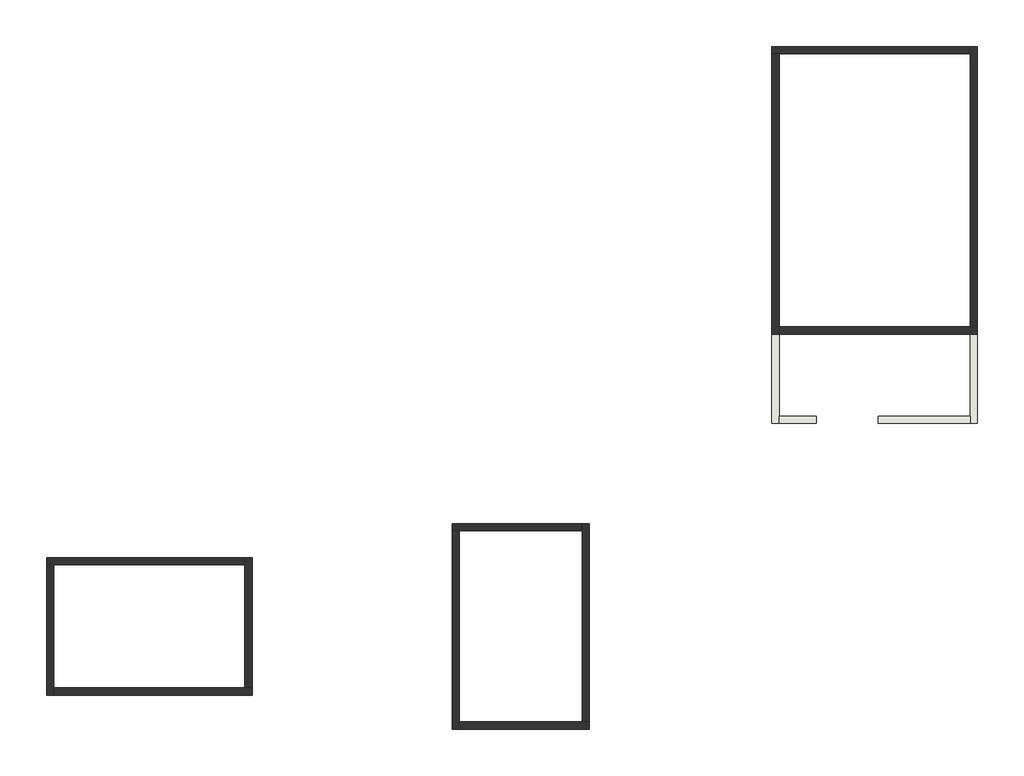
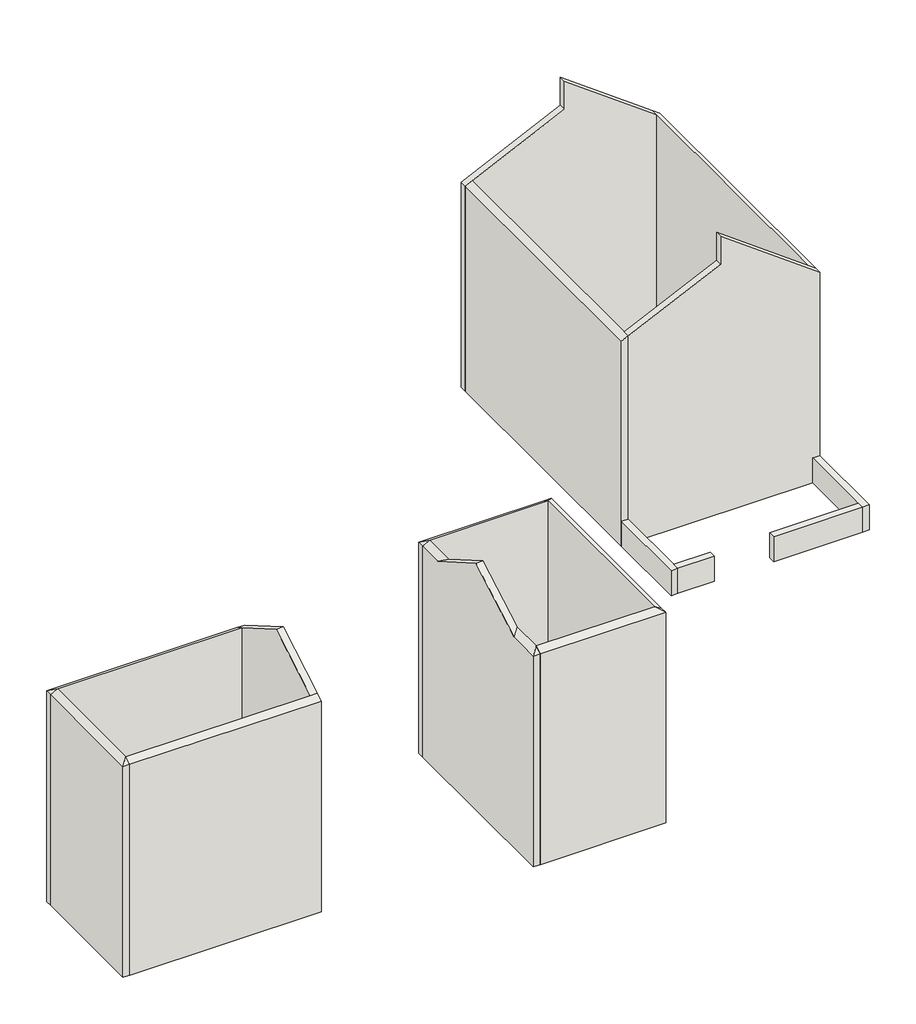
# One storey: 16 walls.
"""IFC4 building model written with IfcOpenShell, lengths in millimetres."""

from ifc_helpers import new_model, si_unit, origin, origin_with_axes, place, context, project, spatial, polyline, outline, extrude, faceted_brep, element, save

model = new_model("IFC4")

# Units and contexts
model_context = context("Model", 3, world=origin())
ifc_project = project(units=[si_unit("LENGTHUNIT", "METRE", prefix="MILLI")], contexts=[model_context])

# Site, building, storey
site = spatial("IfcSite", under=ifc_project)
building = spatial("IfcBuilding", under=site)
storey = spatial("IfcBuildingStorey", under=building, Name="Nível 1", Elevation=0.0)

# Walls
placement = place(None, origin())
element("IfcWall", 1, ObjectType="CW 102-50-100p", at=placement, inside=storey, context=model_context, shape_type="Brep", body=[
    faceted_brep([(-11859.5381387, 2966.9722757, 0.0), (-11595.5381387, 2966.9722757, 0.0), (-4595.5381387, 2966.9722757, 0.0), (-4595.5381387, 2966.9722757, 8614.3006864), (-11595.5381387, 2966.9722757, 8614.3006864), (-11859.5381387, 2966.9722757, 8461.8802154), (-11859.5381387, 3230.9722757, 0.0), (-11859.5381387, 3230.9722757, 8461.8802154), (-4595.5381387, 3230.9722757, 8461.8802154), (-4595.5381387, 3230.9722757, 0.0)], [[[0, 1, 2, 3, 4, 5]], [[6, 7, 8, 9]], [[2, 1, 0, 6, 9]], [[0, 5, 7, 6]], [[3, 2, 9, 8]], [[5, 4, 7]], [[4, 3, 8, 7]]]),
])
element("IfcWall", 2, ObjectType="CW 102-50-100p", at=placement, inside=storey, context=model_context, shape_type="Brep", body=[
    faceted_brep([(-11595.5381387, -1797.0277243, 0.0), (-11595.5381387, -1533.0277243, 0.0), (-11595.5381387, 2966.9722757, 0.0), (-11595.5381387, 2966.9722757, 8614.3006864), (-11595.5381387, -1533.0277243, 8614.3006864), (-11595.5381387, -1797.0277243, 8461.8802154), (-11859.5381387, -1797.0277243, 0.0), (-11859.5381387, -1797.0277243, 8461.8802154), (-11859.5381387, 2966.9722757, 8461.8802154), (-11859.5381387, 2966.9722757, 0.0)], [[[0, 1, 2, 3, 4, 5]], [[6, 7, 8, 9]], [[2, 1, 0, 6, 9]], [[0, 5, 7, 6]], [[3, 2, 9, 8]], [[5, 4, 7]], [[4, 3, 8, 7]]]),
])
element("IfcWall", 3, ObjectType="CW 102-50-100p", at=placement, inside=storey, context=model_context, shape_type="Brep", body=[
    faceted_brep([(-4331.5381387, -1533.0277243, 0.0), (-4595.5381387, -1533.0277243, 0.0), (-11595.5381387, -1533.0277243, 0.0), (-11595.5381387, -1533.0277243, 8614.3006864), (-4595.5381387, -1533.0277243, 8614.3006864), (-4331.5381387, -1533.0277243, 8614.3006864), (-4331.5381387, -1797.0277243, 0.0), (-4331.5381387, -1797.0277243, 8461.8802154), (-11595.5381387, -1797.0277243, 8461.8802154), (-11595.5381387, -1797.0277243, 0.0)], [[[0, 1, 2, 3, 4, 5]], [[6, 7, 8, 9]], [[2, 1, 0, 6, 9]], [[0, 5, 7, 6]], [[3, 2, 9, 8]], [[5, 4, 3, 8, 7]]]),
])
element("IfcWall", 4, ObjectType="CW 102-50-100p", at=placement, inside=storey, context=model_context, shape_type="Brep", body=[
    faceted_brep([(-4595.5381387, 3230.9722757, 0.0), (-4595.5381387, 2966.9722757, 0.0), (-4595.5381387, -1533.0277243, 0.0), (-4595.5381387, -1533.0277243, 8614.3006864), (-4595.5381387, 716.9722757, 9913.3387921), (-4595.5381387, 2966.9722757, 8614.3006864), (-4595.5381387, 3230.9722757, 8461.8802154), (-4331.5381387, 3230.9722757, 0.0), (-4331.5381387, 3230.9722757, 8461.8802154), (-4331.5381387, 716.9722757, 9913.3387921), (-4331.5381387, -1533.0277243, 8614.3006864), (-4331.5381387, -1533.0277243, 0.0)], [[[0, 1, 2, 3, 4, 5, 6]], [[7, 8, 9, 10, 11]], [[2, 1, 0, 7, 11]], [[0, 6, 8, 7]], [[3, 2, 11, 10]], [[6, 5, 4, 9, 8]], [[4, 3, 10, 9]]]),
])
element("IfcWall", 5, ObjectType="CW 102-50-100p", at=placement, inside=storey, context=model_context, shape_type="Brep", body=[
    faceted_brep([(3254.4618613, -3047.0277243, 0.0), (3254.4618613, -2783.0277243, 0.0), (3254.4618613, 4216.9722757, 0.0), (3254.4618613, 4216.9722757, 8614.3006864), (3254.4618613, 2966.9722757, 8614.3006864), (3254.4618613, 716.9722757, 9913.3387921), (3254.4618613, -1533.0277243, 8614.3006864), (3254.4618613, -2783.0277243, 8614.3006864), (3254.4618613, -3047.0277243, 8461.8802154), (2990.4618613, -3047.0277243, 0.0), (2990.4618613, -3047.0277243, 8461.8802154), (2990.4618613, -1797.0277243, 8461.8802154), (2990.4618613, 716.9722757, 9913.3387921), (2990.4618613, 3230.9722757, 8461.8802154), (2990.4618613, 4216.9722757, 8461.8802154), (2990.4618613, 4216.9722757, 0.0)], [[[0, 1, 2, 3, 4, 5, 6, 7, 8]], [[9, 10, 11, 12, 13, 14, 15]], [[2, 1, 0, 9, 15]], [[0, 8, 10, 9]], [[3, 2, 15, 14]], [[8, 7, 10]], [[7, 6, 11, 10]], [[6, 5, 12, 11]], [[5, 4, 13, 12]], [[4, 3, 14, 13]]]),
])
element("IfcWall", 6, ObjectType="CW 102-50-100p", at=placement, inside=storey, context=model_context, shape_type="Brep", body=[
    faceted_brep([(8018.4618613, -2783.0277243, 0.0), (7754.4618613, -2783.0277243, 0.0), (3254.4618613, -2783.0277243, 0.0), (3254.4618613, -2783.0277243, 8614.3006864), (7754.4618613, -2783.0277243, 8614.3006864), (8018.4618613, -2783.0277243, 8461.8802154), (8018.4618613, -3047.0277243, 0.0), (8018.4618613, -3047.0277243, 8461.8802154), (3254.4618613, -3047.0277243, 8461.8802154), (3254.4618613, -3047.0277243, 0.0)], [[[0, 1, 2, 3, 4, 5]], [[6, 7, 8, 9]], [[2, 1, 0, 6, 9]], [[0, 5, 7, 6]], [[3, 2, 9, 8]], [[5, 4, 7]], [[4, 3, 8, 7]]]),
])
element("IfcWall", 7, ObjectType="CW 102-50-100p", at=placement, inside=storey, context=model_context, shape_type="Brep", body=[
    faceted_brep([(7754.4618613, 4480.9722757, 0.0), (7754.4618613, 4216.9722757, 0.0), (7754.4618613, -2783.0277243, 0.0), (7754.4618613, -2783.0277243, 8614.3006864), (7754.4618613, 4216.9722757, 8614.3006864), (7754.4618613, 4480.9722757, 8461.8802154), (8018.4618613, 4480.9722757, 0.0), (8018.4618613, 4480.9722757, 8461.8802154), (8018.4618613, -2783.0277243, 8461.8802154), (8018.4618613, -2783.0277243, 0.0)], [[[0, 1, 2, 3, 4, 5]], [[6, 7, 8, 9]], [[2, 1, 0, 6, 9]], [[0, 5, 7, 6]], [[3, 2, 9, 8]], [[5, 4, 7]], [[4, 3, 8, 7]]]),
])
element("IfcWall", 8, ObjectType="CW 102-50-100p", at=placement, inside=storey, context=model_context, shape_type="Brep", body=[
    faceted_brep([(2990.4618613, 4216.9722757, 0.0), (3254.4618613, 4216.9722757, 0.0), (7754.4618613, 4216.9722757, 0.0), (7754.4618613, 4216.9722757, 8614.3006864), (3254.4618613, 4216.9722757, 8614.3006864), (2990.4618613, 4216.9722757, 8461.8802154), (2990.4618613, 4480.9722757, 0.0), (2990.4618613, 4480.9722757, 8461.8802154), (7754.4618613, 4480.9722757, 8461.8802154), (7754.4618613, 4480.9722757, 0.0)], [[[0, 1, 2, 3, 4, 5]], [[6, 7, 8, 9]], [[2, 1, 0, 6, 9]], [[0, 5, 7, 6]], [[3, 2, 9, 8]], [[5, 4, 7]], [[4, 3, 8, 7]]]),
])
element("IfcWall", 9, ObjectType="CW 102-50-100p", at=placement, inside=storey, context=model_context, shape_type="Brep", body=[
    faceted_brep([(14695.4842802, 21682.007266, 0.0), (14959.4842802, 21682.007266, 0.0), (21959.4842802, 21682.007266, 0.0), (21959.4842802, 21682.007266, 8561.2930311), (18459.4842802, 21682.007266, 11132.6616289), (18459.4842802, 21682.007266, 10000.0), (14959.4842802, 21682.007266, 8358.3489681), (14695.4842802, 21682.007266, 8234.521576), (14695.4842802, 21946.007266, 0.0), (14695.4842802, 21946.007266, 8234.521576), (18459.4842802, 21946.007266, 10000.0), (18459.4842802, 21946.007266, 11132.6616289), (21959.4842802, 21946.007266, 8561.2930311), (21959.4842802, 21946.007266, 0.0)], [[[0, 1, 2, 3, 4, 5, 6, 7]], [[8, 9, 10, 11, 12, 13]], [[2, 1, 0, 8, 13]], [[0, 7, 9, 8]], [[3, 2, 13, 12]], [[4, 11, 10, 5]], [[7, 6, 5, 10, 9]], [[4, 3, 12, 11]]]),
])
element("IfcWall", 10, ObjectType="CW 102-50-100p", at=placement, inside=storey, context=model_context, shape_type="Brep", body=[
    faceted_brep([(14959.4842802, 11418.007266, 8358.3489681), (14959.4842802, 11418.007266, 1000.0), (14959.4842802, 11418.007266, 0.0), (14959.4842802, 11682.007266, 0.0), (14959.4842802, 21682.007266, 0.0), (14959.4842802, 21682.007266, 8358.3489681), (14959.4842802, 11682.007266, 8358.3489681), (14695.4842802, 11418.007266, 0.0), (14695.4842802, 11418.007266, 1000.0), (14695.4842802, 11418.007266, 8234.521576), (14695.4842802, 21682.007266, 8234.521576), (14695.4842802, 21682.007266, 0.0)], [[[0, 1, 2, 3, 4, 5, 6]], [[7, 8, 9, 10, 11]], [[4, 3, 2, 7, 11]], [[5, 4, 11, 10]], [[0, 9, 8, 7, 2, 1]], [[0, 6, 5, 10, 9]]]),
])
element("IfcWall", 11, ObjectType="CW 102-50-100p", at=placement, inside=storey, context=model_context, shape_type="Brep", body=[
    faceted_brep([(22223.4842802, 11682.007266, 8367.3383711), (22223.4842802, 11682.007266, 0.0), (21959.4842802, 11682.007266, 0.0), (14959.4842802, 11682.007266, 0.0), (14959.4842802, 11682.007266, 8358.3489681), (18459.4842802, 11682.007266, 10000.0), (18459.4842802, 11682.007266, 11132.6616289), (21959.4842802, 11682.007266, 8561.2930311), (22223.4842802, 11418.007266, 0.0), (22223.4842802, 11418.007266, 1000.0), (22223.4842802, 11418.007266, 8367.3383711), (18459.4842802, 11418.007266, 11132.6616289), (18459.4842802, 11418.007266, 10000.0), (14959.4842802, 11418.007266, 8358.3489681), (14959.4842802, 11418.007266, 0.0), (21959.4842802, 11418.007266, 0.0)], [[[0, 1, 2, 3, 4, 5, 6, 7]], [[8, 9, 10, 11, 12, 13, 14, 15]], [[3, 2, 1, 8, 15, 14]], [[3, 14, 13, 4]], [[0, 10, 9, 8, 1]], [[11, 6, 5, 12]], [[5, 4, 13, 12]], [[0, 7, 6, 11, 10]]]),
])
element("IfcWall", 12, ObjectType="CW 102-50-100p", at=placement, inside=storey, context=model_context, shape_type="Brep", body=[
    faceted_brep([(21959.4842802, 21946.007266, 0.0), (21959.4842802, 21682.007266, 0.0), (21959.4842802, 11682.007266, 0.0), (21959.4842802, 11682.007266, 8561.2930311), (21959.4842802, 21682.007266, 8561.2930311), (21959.4842802, 21946.007266, 8561.2930311), (22223.4842802, 21946.007266, 0.0), (22223.4842802, 21946.007266, 8367.3383711), (22223.4842802, 11682.007266, 8367.3383711), (22223.4842802, 11682.007266, 0.0)], [[[0, 1, 2, 3, 4, 5]], [[6, 7, 8, 9]], [[2, 1, 0, 6, 9]], [[0, 5, 7, 6]], [[2, 9, 8, 3]], [[5, 4, 3, 8, 7]]]),
])
element("IfcWall", 13, ObjectType="CW 102-50-100p", at=placement, inside=storey, context=model_context, shape_type="Brep", body=[
    faceted_brep([(14695.4842802, 11418.007266, 0.0), (14695.4842802, 8154.007266, 0.0), (14695.4842802, 8154.007266, 1000.0), (14695.4842802, 11418.007266, 1000.0), (14959.4842802, 11418.007266, 0.0), (14959.4842802, 11418.007266, 1000.0), (14959.4842802, 8418.007266, 1000.0), (14959.4842802, 8154.007266, 1000.0), (14959.4842802, 8154.007266, 0.0), (14959.4842802, 8418.007266, 0.0)], [[[0, 1, 2, 3]], [[4, 5, 6, 7, 8, 9]], [[1, 0, 4, 9, 8]], [[3, 2, 7, 6, 5]], [[0, 3, 5, 4]], [[2, 1, 8, 7]]]),
])
element("IfcWall", 14, ObjectType="CW 102-50-100p", at=placement, inside=storey, context=model_context, shape_type="Brep", body=[
    faceted_brep([(21959.4842802, 11418.007266, 0.0), (21959.4842802, 8418.007266, 0.0), (21959.4842802, 8154.007266, 0.0), (21959.4842802, 8154.007266, 1000.0), (21959.4842802, 8418.007266, 1000.0), (21959.4842802, 11418.007266, 1000.0), (22223.4842802, 11418.007266, 0.0), (22223.4842802, 11418.007266, 1000.0), (22223.4842802, 8154.007266, 1000.0), (22223.4842802, 8154.007266, 0.0)], [[[0, 1, 2, 3, 4, 5]], [[6, 7, 8, 9]], [[2, 1, 0, 6, 9]], [[5, 4, 3, 8, 7]], [[0, 5, 7, 6]], [[3, 2, 9, 8]]]),
])
element("IfcWall", 15, ObjectType="CW 102-50-100p", at=placement, inside=storey, context=model_context, shape_type="SweptSolid", body=[
    extrude(outline(polyline([(18591.4842802, 8418.007266), (21959.4842802, 8418.007266), (21959.4842802, 8154.007266), (18591.4842802, 8154.007266), (18591.4842802, 8418.007266)])), origin_with_axes(), (0.0, 0.0, 1.0), 1000.0),
])
element("IfcWall", 16, ObjectType="CW 102-50-100p", at=placement, inside=storey, context=model_context, shape_type="SweptSolid", body=[
    extrude(outline(polyline([(14959.4842802, 8418.007266), (16327.4842802, 8418.007266), (16327.4842802, 8154.007266), (14959.4842802, 8154.007266), (14959.4842802, 8418.007266)])), origin_with_axes(), (0.0, 0.0, 1.0), 1000.0),
])

save(model, "model.ifc")
